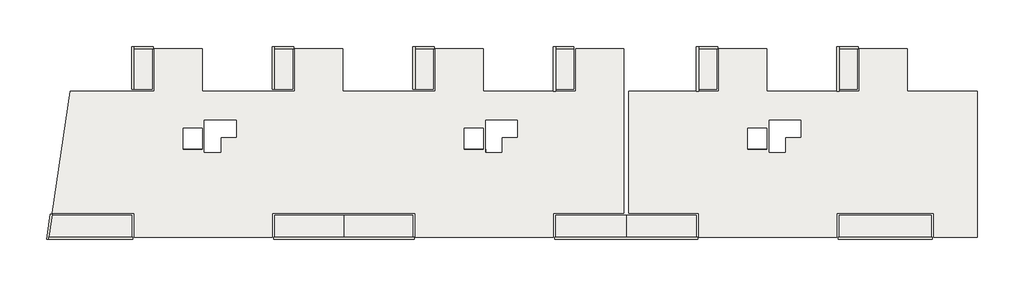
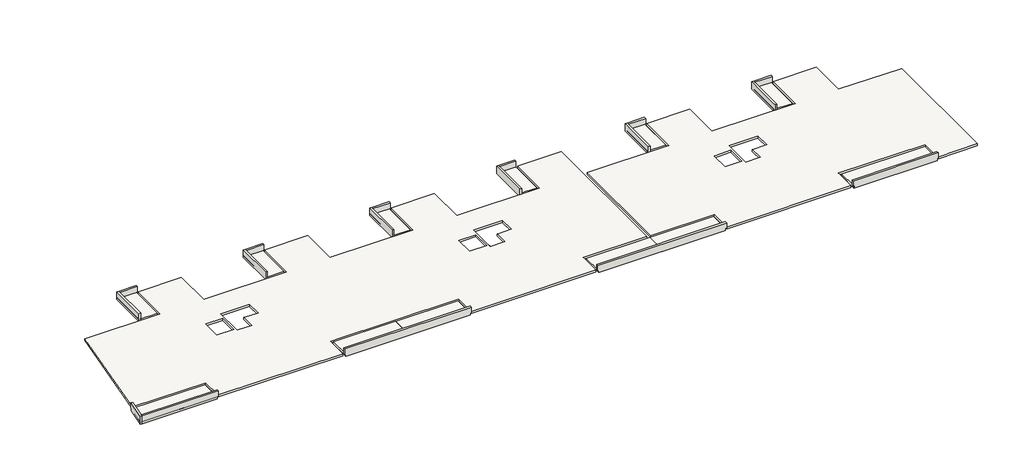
# One storey: 17 walls, 14 slabs, 3 beams.
"""IFC4 building model written with IfcOpenShell, lengths in millimetres."""

from ifc_helpers import new_model, si_unit, frame, origin, place, context, project, spatial, polyline, outline, extrude, faceted_brep, element, save

model = new_model("IFC4")

# Units and contexts
model_context = context("Model", 3, world=origin())
ifc_project = project(units=[si_unit("LENGTHUNIT", "METRE", prefix="MILLI")], contexts=[model_context])

# Site, building, storey
site = spatial("IfcSite", under=ifc_project)
building = spatial("IfcBuilding", under=site)
storey = spatial("IfcBuildingStorey", under=building, Name="Niv +3", Elevation=8100.0)

# Beams
placement = place(None, origin())
element("IfcBeam", 1, ObjectType="FREYS POUTRE BETON : -FREYS béton 20*38 C 25/30", at=placement, inside=storey, context=model_context, shape_type="SweptSolid", body=[
    extrude(outline(polyline([(-20235.4433224, 1086.34287), (-20235.4433224, 1286.34287), (-18635.4741279, 1286.34287), (-18635.4741279, 1086.34287), (-20235.4433224, 1086.34287)])), frame((0.0, 0.0, 7720.0), z_axis=(0.0, 0.0, 1.0), x_axis=(1.0, 0.0, 0.0)), (0.0, 0.0, 1.0), 180.0),
])
element("IfcBeam", 2, ObjectType="FREYS POUTRE BETON : -FREYS béton 20*38 C 25/30", at=placement, inside=storey, context=model_context, shape_type="SweptSolid", body=[
    extrude(outline(polyline([(5564.5312777, 1286.34287), (5564.5312777, 1086.34287), (5562.590834, 1086.34287), (5562.590834, 1286.34287), (5564.5312777, 1286.34287)])), frame((0.0, 0.0, 7900.0), z_axis=(0.0, 0.0, 1.0), x_axis=(1.0, 0.0, 0.0)), (0.0, 0.0, 1.0), 200.0),
    extrude(outline(polyline([(5364.5312777, 1286.34287), (5364.5312777, 1086.34287), (3764.5312756, 1086.34287), (3764.5312756, 1286.34287), (5364.5312777, 1286.34287)])), frame((0.0, 0.0, 7720.0), z_axis=(0.0, 0.0, 1.0), x_axis=(1.0, 0.0, 0.0)), (0.0, 0.0, 1.0), 180.0),
])
element("IfcBeam", 3, ObjectType="FREYS POUTRE BETON : -FREYS béton 20*38 C 25/30", at=placement, inside=storey, context=model_context, shape_type="SweptSolid", body=[
    extrude(outline(polyline([(27964.5312756, 1086.34287), (27964.5312756, 1286.34287), (29564.5058756, 1286.34287), (29564.5058756, 1086.34287), (27964.5312756, 1086.34287)])), frame((0.0, 0.0, 7720.0), z_axis=(0.0, 0.0, 1.0), x_axis=(1.0, 0.0, 0.0)), (0.0, 0.0, 1.0), 180.0),
])

# Slabs
element("IfcSlab", 4, ObjectType="FREYS BA20 C25/30", at=placement, inside=storey, context=model_context, shape_type="Brep", body=[
    faceted_brep([(-22725.443151, 6246.3702418, 7900.0), (-22725.443151, 9876.3428653, 7900.0), (-18615.4433224, 9876.3428653, 7900.0), (-18615.4433224, 6246.3702418, 7900.0), (-10725.0456065, 6246.3702418, 7900.0), (-10725.0456065, 9876.3428653, 7900.0), (-6635.4433224, 9876.3428653, 7900.0), (-6635.4433224, 6246.3428699, 7900.0), (1274.556849, 6246.3428699, 7900.0), (1274.556849, 9876.3428653, 7900.0), (5374.5566776, 9876.3428653, 7900.0), (5374.5566776, 6246.3428699, 7900.0), (13275.4308018, 6246.3428699, 7900.0), (13275.4308018, 9876.3428699, 7900.0), (17374.5566776, 9876.3428699, 7900.0), (17374.5566776, -4173.6825564, 7900.0), (11364.5281637, -4173.6825564, 7900.0), (11364.5281637, -6223.682546, 7900.0), (-435.4687207, -6223.682546, 7900.0), (-435.4687207, -4173.6823111, 7900.0), (-12635.4687207, -4173.6823111, 7900.0), (-12635.4687207, -6223.661173, 7900.0), (-24435.4687207, -6223.661173, 7900.0), (-24435.4687207, -4173.6571231, 7900.0), (-31401.7031415, -4173.6571231, 7900.0), (-29881.1275521, 6246.3702418, 7900.0), (-18635.4741279, 3086.3428699, 7900.0), (-20235.4433224, 3086.3428699, 7900.0), (-20235.4433224, 1286.34287, 7900.0), (-18635.4741279, 1286.34287, 7900.0), (-15715.4423564, 3746.3428169, 7900.0), (-18435.4741279, 3746.3428169, 7900.0), (-18435.4741279, 1046.3702418, 7900.0), (-17055.4423564, 1046.3702418, 7900.0), (-17055.4423564, 2313.1211497, 7900.0), (-15715.4423564, 2313.1211497, 7900.0), (5364.5004702, 3086.3428699, 7900.0), (3764.5312756, 3086.3428699, 7900.0), (3764.5312756, 1286.34287, 7900.0), (5364.5004702, 1286.34287, 7900.0), (8282.6226054, 3746.3428169, 7900.0), (5562.590834, 3746.3428169, 7900.0), (5562.590834, 1286.34287, 7900.0), (5562.590834, 1086.34287, 7900.0), (5562.590834, 1046.3702418, 7900.0), (6942.6226054, 1046.3702418, 7900.0), (6942.6226054, 2313.1211497, 7900.0), (8282.6226054, 2313.1211497, 7900.0), (-22725.443151, 9876.3428653, 8100.0), (-22725.443151, 6246.3702418, 8100.0), (-29881.1275521, 6246.3702418, 8100.0), (-31401.7031415, -4173.6571231, 8100.0), (-24435.4687207, -4173.6571231, 8100.0), (-24435.4687207, -6223.661173, 8100.0), (-12635.4687207, -6223.661173, 8100.0), (-12635.4687207, -4173.6823111, 8100.0), (-435.4687207, -4173.6823111, 8100.0), (-435.4687207, -6223.682546, 8100.0), (11364.5281637, -6223.682546, 8100.0), (11364.5281637, -4173.6825564, 8100.0), (17374.5566776, -4173.6825564, 8100.0), (17374.5566776, 9876.3428699, 8100.0), (13275.4308018, 9876.3428699, 8100.0), (13275.4308018, 6246.3428699, 8100.0), (5374.5566776, 6246.3428699, 8100.0), (5374.5566776, 9876.3428653, 8100.0), (1274.556849, 9876.3428653, 8100.0), (1274.556849, 6246.3428699, 8100.0), (-6635.4433224, 6246.3428699, 8100.0), (-6635.4433224, 9876.3428653, 8100.0), (-10725.0456065, 9876.3428653, 8100.0), (-10725.0456065, 6246.3702418, 8100.0), (-18615.4433224, 6246.3702418, 8100.0), (-18615.4433224, 9876.3428653, 8100.0), (-20235.4433224, 3086.3428699, 8100.0), (-18635.4741279, 3086.3428699, 8100.0), (-18635.4741279, 1286.34287, 8100.0), (-20235.4433224, 1286.34287, 8100.0), (-18435.4741279, 3746.3428169, 8100.0), (-15715.4423564, 3746.3428169, 8100.0), (-15715.4423564, 2313.1211497, 8100.0), (-17055.4423564, 2313.1211497, 8100.0), (-17055.4423564, 1046.3702418, 8100.0), (-18435.4741279, 1046.3702418, 8100.0), (3764.5312756, 3086.3428699, 8100.0), (5364.5004702, 3086.3428699, 8100.0), (5364.5004702, 1286.34287, 8100.0), (3764.5312756, 1286.34287, 8100.0), (5562.590834, 3746.3428169, 8100.0), (8282.6226054, 3746.3428169, 8100.0), (8282.6226054, 2313.1211497, 8100.0), (6942.6226054, 2313.1211497, 8100.0), (6942.6226054, 1046.3702418, 8100.0), (5562.590834, 1046.3702418, 8100.0), (5562.590834, 1086.34287, 8100.0), (5562.590834, 1286.34287, 8100.0)], [[[0, 1, 2, 3, 4, 5, 6, 7, 8, 9, 10, 11, 12, 13, 14, 15, 16, 17, 18, 19, 20, 21, 22, 23, 24, 25], [26, 27, 28, 29], [30, 31, 32, 33, 34, 35], [36, 37, 38, 39], [40, 41, 42, 43, 44, 45, 46, 47]], [[48, 49, 50, 51, 52, 53, 54, 55, 56, 57, 58, 59, 60, 61, 62, 63, 64, 65, 66, 67, 68, 69, 70, 71, 72, 73], [74, 75, 76, 77], [78, 79, 80, 81, 82, 83], [84, 85, 86, 87], [88, 89, 90, 91, 92, 93, 94, 95]], [[1, 0, 49, 48]], [[2, 1, 48, 73]], [[3, 2, 73, 72]], [[4, 3, 72, 71]], [[5, 4, 71, 70]], [[6, 5, 70, 69]], [[7, 6, 69, 68]], [[8, 7, 68, 67]], [[9, 8, 67, 66]], [[10, 9, 66, 65]], [[11, 10, 65, 64]], [[12, 11, 64, 63]], [[13, 12, 63, 62]], [[14, 13, 62, 61]], [[15, 14, 61, 60]], [[16, 15, 60, 59]], [[17, 16, 59, 58]], [[18, 17, 58, 57]], [[19, 18, 57, 56]], [[20, 19, 56, 55]], [[21, 20, 55, 54]], [[22, 21, 54, 53]], [[23, 22, 53, 52]], [[24, 23, 52, 51]], [[25, 24, 51, 50]], [[0, 25, 50, 49]], [[26, 75, 74, 27]], [[27, 74, 77, 28]], [[28, 77, 76, 29]], [[75, 26, 29, 76]], [[30, 79, 78, 31]], [[31, 78, 83, 32]], [[32, 83, 82, 33]], [[33, 82, 81, 34]], [[34, 81, 80, 35]], [[79, 30, 35, 80]], [[36, 85, 84, 37]], [[37, 84, 87, 38]], [[38, 87, 86, 39]], [[85, 36, 39, 86]], [[40, 89, 88, 41]], [[41, 88, 95, 94, 93, 44, 43, 42]], [[44, 93, 92, 45]], [[45, 92, 91, 46]], [[46, 91, 90, 47]], [[89, 40, 47, 90]]]),
])
element("IfcSlab", 5, ObjectType="FREYS BA21-Var C25/30", at=placement, inside=storey, context=model_context, shape_type="SweptSolid", body=[
    extrude(outline(polyline([(7890.0, -12635.4687207), (7890.0, -10905.0456065), (8070.0, -10905.0456065), (8100.0, -12635.4687207), (7890.0, -12635.4687207)])), frame((0.0, 6426.3702418, 0.0), z_axis=(0.0, 1.0, 0.0), x_axis=(0.0, 0.0, 1.0)), (0.0, 0.0, 1.0), 3629.9726235),
])
element("IfcSlab", 6, ObjectType="FREYS BA21-Var C25/30", at=placement, inside=storey, context=model_context, shape_type="SweptSolid", body=[
    extrude(outline(polyline([(7890.0, -24635.8662653), (7890.0, -22905.443151), (8070.0, -22905.443151), (8100.0, -24635.8662653), (7890.0, -24635.8662653)])), frame((0.0, 6426.3702418, 0.0), z_axis=(0.0, 1.0, 0.0), x_axis=(0.0, 0.0, 1.0)), (0.0, 0.0, 1.0), 3629.9726235),
])
element("IfcSlab", 7, ObjectType="FREYS BA21-Var C25/30", at=placement, inside=storey, context=model_context, shape_type="SweptSolid", body=[
    extrude(outline(polyline([(7890.0, -635.8662653), (7890.0, 1094.556849), (8070.0, 1094.556849), (8100.0, -635.8662653), (7890.0, -635.8662653)])), frame((0.0, 6426.3702418, 0.0), z_axis=(0.0, 1.0, 0.0), x_axis=(0.0, 0.0, 1.0)), (0.0, 0.0, 1.0), 3629.9726235),
])
element("IfcSlab", 8, ObjectType="FREYS BA21-Var C25/30", at=placement, inside=storey, context=model_context, shape_type="SweptSolid", body=[
    extrude(outline(polyline([(7890.0, 11364.1337347), (7890.0, 13094.556849), (8070.0, 13094.556849), (8100.0, 11364.1337347), (7890.0, 11364.1337347)])), frame((0.0, 6426.3702418, 0.0), z_axis=(0.0, 1.0, 0.0), x_axis=(0.0, 0.0, 1.0)), (0.0, 0.0, 1.0), 3629.9726235),
])
element("IfcSlab", 9, ObjectType="FREYS BA21-Var C25/30", at=placement, inside=storey, context=model_context, shape_type="SweptSolid", body=[
    extrude(outline(polyline([(7890.0, 23564.1337347), (7890.0, 25294.556849), (8070.0, 25294.556849), (8100.0, 23564.1337347), (7890.0, 23564.1337347)])), frame((0.0, 6426.3702418, 0.0), z_axis=(0.0, 1.0, 0.0), x_axis=(0.0, 0.0, 1.0)), (0.0, 0.0, 1.0), 3629.9726235),
])
element("IfcSlab", 10, ObjectType="FREYS BA21-Var C25/30", at=placement, inside=storey, context=model_context, shape_type="SweptSolid", body=[
    extrude(outline(polyline([(7890.0, 35564.1337347), (7890.0, 37294.556849), (8070.0, 37294.556849), (8100.0, 35564.1337347), (7890.0, 35564.1337347)])), frame((0.0, 6426.3702418, 0.0), z_axis=(0.0, 1.0, 0.0), x_axis=(0.0, 0.0, 1.0)), (0.0, 0.0, 1.0), 3629.9726235),
])
element("IfcSlab", 11, ObjectType="FREYS BA21-Var C25/30", at=placement, inside=storey, context=model_context, shape_type="Brep", body=[
    faceted_brep([(-31898.8987013, -6403.661173, 7890.0), (-31599.7453491, -4353.6571231, 7890.0), (-24635.4687207, -4353.6571231, 7890.0), (-24635.4687207, -6403.661173, 7890.0), (-31898.8987013, -6403.661173, 8100.0), (-31599.7453491, -4353.6571231, 8070.0), (-24635.4687207, -4353.6571231, 8070.0), (-24635.4687207, -6403.661173, 8100.0)], [[[0, 1, 2, 3]], [[1, 0, 4, 5]], [[2, 1, 5, 6]], [[3, 2, 6, 7]], [[0, 3, 7, 4]], [[7, 6, 5, 4]]]),
])
element("IfcSlab", 12, ObjectType="FREYS BA21-Var C25/30", at=placement, inside=storey, context=model_context, shape_type="SweptSolid", body=[
    extrude(outline(polyline([(-4353.6823111, 7890.0), (-6363.6782535, 7890.0), (-6363.6782535, 8100.0), (-4353.6823111, 8070.0), (-4353.6823111, 7890.0)])), frame((-12435.4687207, 0.0, 0.0), z_axis=(1.0, 0.0, 0.0), x_axis=(0.0, 1.0, 0.0)), (0.0, 0.0, 1.0), 5894.999993),
])
element("IfcSlab", 13, ObjectType="FREYS BA21-Var C25/30", at=placement, inside=storey, context=model_context, shape_type="SweptSolid", body=[
    extrude(outline(polyline([(-4353.6823111, 7890.0), (-6363.6782535, 7890.0), (-6363.6782535, 8100.0), (-4353.6823111, 8070.0), (-4353.6823111, 7890.0)])), frame((-6530.4687278, 0.0, 0.0), z_axis=(1.0, 0.0, 0.0), x_axis=(0.0, 1.0, 0.0)), (0.0, 0.0, 1.0), 5889.9999999),
])
element("IfcSlab", 14, ObjectType="FREYS BA21-Var C25/30", at=placement, inside=storey, context=model_context, shape_type="SweptSolid", body=[
    extrude(outline(polyline([(-4353.6825564, 7890.0), (-6363.6722782, 7890.0), (-6363.6722782, 8100.0), (-4353.6825564, 8070.0), (-4353.6825564, 7890.0)])), frame((11564.5281637, 0.0, 0.0), z_axis=(1.0, 0.0, 0.0), x_axis=(0.0, 1.0, 0.0)), (0.0, 0.0, 1.0), 5989.9775191),
])
element("IfcSlab", 15, ObjectType="FREYS BA21-Var C25/30", at=placement, inside=storey, context=model_context, shape_type="SweptSolid", body=[
    extrude(outline(polyline([(-4353.6825564, 7890.0), (-6363.6722782, 7890.0), (-6363.6722782, 8100.0), (-4353.6825564, 8070.0), (-4353.6825564, 7890.0)])), frame((17574.5789126, 0.0, 0.0), z_axis=(1.0, 0.0, 0.0), x_axis=(0.0, 1.0, 0.0)), (0.0, 0.0, 1.0), 5989.9775191),
])
element("IfcSlab", 16, ObjectType="FREYS BA21-Var C25/30", at=placement, inside=storey, context=model_context, shape_type="SweptSolid", body=[
    extrude(outline(polyline([(-4353.6837353, 7890.0), (-6363.6732471, 7890.0), (-6363.6732471, 8100.0), (-4353.6837353, 8070.0), (-4353.6837353, 7890.0)])), frame((35764.5312786, 0.0, 0.0), z_axis=(1.0, 0.0, 0.0), x_axis=(0.0, 1.0, 0.0)), (0.0, 0.0, 1.0), 7860.0251625),
])
element("IfcSlab", 17, ObjectType="FREYS BA20 C25/30", at=placement, inside=storey, context=model_context, shape_type="SweptSolid", body=[
    extrude(outline(polyline([(25474.556849, 6246.3428699), (25474.556849, 9874.7647075), (29584.5566776, 9874.7647075), (29584.5566776, 6246.3428699), (37474.5566776, 6246.3428699), (37474.5566776, 9876.3428653), (41564.5566776, 9876.3428653), (41564.5566776, 6246.3428699), (47554.5312792, 6246.3428699), (47554.5312792, -6223.7079703), (43804.5564412, -6223.7079703), (43804.5564412, -4173.6837353), (35564.5312786, -4173.6837353), (35564.5312786, -6223.682253), (23764.5564317, -6223.682253), (23764.5564317, -4173.682553), (17774.5566776, -4173.682553), (17774.5566776, 6246.3428699), (25474.556849, 6246.3428699)]), holes=[polyline([(29564.5004702, 3086.3428699), (27964.5312756, 3086.3428699), (27964.5312756, 1286.34287), (29564.5004702, 1286.34287), (29564.5004702, 3086.3428699)]), polyline([(32484.537647, 3746.3428169), (29764.5058756, 3746.3428169), (29764.5058756, 1046.3702418), (31144.537647, 1046.3702418), (31144.537647, 2313.1211497), (32484.537647, 2313.1211497), (32484.537647, 3746.3428169)])]), frame((0.0, 0.0, 7900.0), z_axis=(0.0, 0.0, 1.0), x_axis=(1.0, 0.0, 0.0)), (0.0, 0.0, 1.0), 200.0),
])

# Walls
element("IfcWall", 18, ObjectType="FREYS acro C25/30 ep=18 EXT", at=placement, inside=storey, context=model_context, shape_type="Brep", body=[
    faceted_brep([(-31609.8766701, -4353.6571231, 7890.0), (-31909.0300224, -6403.661173, 7890.0), (-31909.0300224, -6403.661173, 8650.0), (-31594.8466676, -4250.6612322, 8650.0), (-31594.8466676, -4250.6612322, 8100.0), (-31609.8766701, -4353.6571231, 8100.0), (-31427.9702133, -4353.6571231, 7890.0), (-31427.9702133, -4353.6571231, 8100.0), (-31416.733144, -4276.6530139, 8100.0), (-31416.733144, -4276.6530139, 8650.0), (-31700.8564938, -6223.661173, 8650.0), (-31727.1235655, -6403.661173, 8650.0), (-31727.1235655, -6403.661173, 7890.0), (-31700.8564938, -6223.661173, 7890.0)], [[[0, 1, 2, 3, 4, 5]], [[6, 7, 8, 9, 10, 11, 12, 13]], [[1, 0, 6, 13, 12]], [[3, 2, 11, 10, 9]], [[2, 1, 12, 11]], [[4, 3, 9, 8]], [[4, 8, 7, 5]], [[0, 5, 7, 6]]]),
])
element("IfcWall", 19, ObjectType="FREYS acro C25/30 ep=18 EXT", at=placement, inside=storey, context=model_context, shape_type="Brep", body=[
    faceted_brep([(-24635.4687207, -6223.661173, 7890.0), (-31700.8564938, -6223.661173, 7890.0), (-31700.8564938, -6223.661173, 8650.0), (-24535.4687207, -6223.661173, 8650.0), (-24535.4687207, -6223.661173, 8100.0), (-24635.4687207, -6223.661173, 8100.0), (-24635.4687207, -6403.661173, 7890.0), (-24635.4687207, -6403.661173, 8100.0), (-24535.4687207, -6403.661173, 8100.0), (-24535.4687207, -6403.661173, 8650.0), (-31727.1235655, -6403.661173, 8650.0), (-31727.1235655, -6403.661173, 7890.0)], [[[0, 1, 2, 3, 4, 5]], [[6, 7, 8, 9, 10, 11]], [[1, 0, 6, 11]], [[3, 2, 10, 9]], [[2, 1, 11, 10]], [[4, 3, 9, 8]], [[4, 8, 7, 5]], [[0, 5, 7, 6]]]),
])
element("IfcWall", 20, ObjectType="FREYS acro C25/30 ep=18 EXT", at=placement, inside=storey, context=model_context, shape_type="SweptSolid", body=[
    extrude(outline(polyline([(7890.0, -12435.4687207), (7890.0, -635.4687207), (8100.0, -635.4687207), (8100.0, -535.4687207), (8650.0, -535.4687207), (8650.0, -12535.4687207), (8100.0, -12535.4687207), (8100.0, -12435.4687207), (7890.0, -12435.4687207)])), frame((0.0, -6403.661173, 0.0), z_axis=(0.0, 1.0, 0.0), x_axis=(0.0, 0.0, 1.0)), (0.0, 0.0, 1.0), 180.0),
])
element("IfcWall", 21, ObjectType="FREYS acro C25/30 ep=18 EXT", at=placement, inside=storey, context=model_context, shape_type="SweptSolid", body=[
    extrude(outline(polyline([(7890.0, 11564.5281637), (7890.0, 23564.5564317), (8100.0, 23564.5564317), (8100.0, 23664.5564317), (8650.0, 23664.5564317), (8650.0, 11464.5281637), (8100.0, 11464.5281637), (8100.0, 11564.5281637), (7890.0, 11564.5281637)])), frame((0.0, -6403.682546, 0.0), z_axis=(0.0, 1.0, 0.0), x_axis=(0.0, 0.0, 1.0)), (0.0, 0.0, 1.0), 180.0),
])
element("IfcWall", 22, ObjectType="FREYS acro C25/30 ep=18 EXT", at=placement, inside=storey, context=model_context, shape_type="SweptSolid", body=[
    extrude(outline(polyline([(7890.0, 35764.5312786), (7890.0, 43624.5564412), (8100.0, 43624.5564412), (8100.0, 43714.5564412), (8650.0, 43714.5564412), (8650.0, 35664.5312786), (8100.0, 35664.5312786), (8100.0, 35764.5312786), (7890.0, 35764.5312786)])), frame((0.0, -6403.682253, 0.0), z_axis=(0.0, 1.0, 0.0), x_axis=(0.0, 0.0, 1.0)), (0.0, 0.0, 1.0), 180.0),
])
element("IfcWall", 23, ObjectType="FREYS acro C25/30 ep=18 EXT", at=placement, inside=storey, context=model_context, shape_type="Brep", body=[
    faceted_brep([(-24455.8662653, 6426.3702418, 8650.0), (-24455.8662653, 6426.3702418, 8100.0), (-24455.8662653, 6426.3702418, 7890.0), (-24455.8662653, 9876.3428653, 7890.0), (-24455.8662653, 10056.3428653, 7890.0), (-24455.8662653, 10056.3428653, 8650.0), (-24455.8662653, 9876.3428653, 8650.0), (-24635.8662653, 6426.3702418, 7890.0), (-24635.8662653, 6426.3702418, 8650.0), (-24635.8662653, 10056.3428653, 8650.0), (-24635.8662653, 10056.3428653, 7890.0)], [[[0, 1, 2, 3, 4, 5, 6]], [[7, 8, 9, 10]], [[4, 3, 2, 7, 10]], [[0, 6, 5, 9, 8]], [[5, 4, 10, 9]], [[0, 8, 7, 2, 1]]]),
])
element("IfcWall", 24, ObjectType="FREYS acro C25/30 ep=18 EXT", at=placement, inside=storey, context=model_context, shape_type="SweptSolid", body=[
    extrude(outline(polyline([(7890.0, -24455.8662653), (7890.0, -22905.443151), (8100.0, -22905.443151), (8100.0, -22815.443151), (8650.0, -22815.443151), (8650.0, -24455.8662653), (7890.0, -24455.8662653)])), frame((0.0, 9876.3428653, 0.0), z_axis=(0.0, 1.0, 0.0), x_axis=(0.0, 0.0, 1.0)), (0.0, 0.0, 1.0), 180.0),
])
element("IfcWall", 25, ObjectType="FREYS acro C25/30 ep=18 EXT", at=placement, inside=storey, context=model_context, shape_type="Brep", body=[
    faceted_brep([(-12455.4687207, 6426.3702418, 8650.0), (-12455.4687207, 6426.3702418, 7890.0), (-12455.4687207, 9876.3428653, 7890.0), (-12455.4687207, 10056.3428653, 7890.0), (-12455.4687207, 10056.3428653, 8650.0), (-12455.4687207, 9876.3428653, 8650.0), (-12635.4687207, 6426.3702418, 7890.0), (-12635.4687207, 6426.3702418, 8650.0), (-12635.4687207, 10056.3428653, 8650.0), (-12635.4687207, 10056.3428653, 7890.0), (-12545.4687207, 6426.3702418, 7890.0)], [[[0, 1, 2, 3, 4, 5]], [[6, 7, 8, 9]], [[3, 2, 1, 10, 6, 9]], [[0, 5, 4, 8, 7]], [[4, 3, 9, 8]], [[0, 7, 6, 10, 1]]]),
])
element("IfcWall", 26, ObjectType="FREYS acro C25/30 ep=18 EXT", at=placement, inside=storey, context=model_context, shape_type="SweptSolid", body=[
    extrude(outline(polyline([(7890.0, -12455.4687207), (7890.0, -10905.0456065), (8100.0, -10905.0456065), (8100.0, -10815.0456065), (8650.0, -10815.0456065), (8650.0, -12455.4687207), (7890.0, -12455.4687207)])), frame((0.0, 9876.3428653, 0.0), z_axis=(0.0, 1.0, 0.0), x_axis=(0.0, 0.0, 1.0)), (0.0, 0.0, 1.0), 180.0),
])
element("IfcWall", 27, ObjectType="FREYS acro C25/30 ep=18 EXT", at=placement, inside=storey, context=model_context, shape_type="Brep", body=[
    faceted_brep([(-455.8662653, 6426.3428699, 8650.0), (-455.8662653, 6426.3428699, 7890.0), (-455.8662653, 9876.3428653, 7890.0), (-455.8662653, 10056.3428653, 7890.0), (-455.8662653, 10056.3428653, 8650.0), (-455.8662653, 9876.3428653, 8650.0), (-635.8662653, 6426.3428699, 7890.0), (-635.8662653, 6426.3428699, 8650.0), (-635.8662653, 10056.3428653, 8650.0), (-635.8662653, 10056.3428653, 7890.0), (-545.8662653, 6426.3428699, 7890.0)], [[[0, 1, 2, 3, 4, 5]], [[6, 7, 8, 9]], [[3, 2, 1, 10, 6, 9]], [[0, 5, 4, 8, 7]], [[4, 3, 9, 8]], [[0, 7, 6, 10, 1]]]),
])
element("IfcWall", 28, ObjectType="FREYS acro C25/30 ep=18 EXT", at=placement, inside=storey, context=model_context, shape_type="SweptSolid", body=[
    extrude(outline(polyline([(7890.0, -455.8662653), (7890.0, 1094.556849), (8100.0, 1094.556849), (8100.0, 1184.556849), (8650.0, 1184.556849), (8650.0, -455.8662653), (7890.0, -455.8662653)])), frame((0.0, 9876.3428653, 0.0), z_axis=(0.0, 1.0, 0.0), x_axis=(0.0, 0.0, 1.0)), (0.0, 0.0, 1.0), 180.0),
])
element("IfcWall", 29, ObjectType="FREYS acro C25/30 ep=18 EXT", at=placement, inside=storey, context=model_context, shape_type="Brep", body=[
    faceted_brep([(11544.1337347, 6246.3428699, 8650.0), (11544.1337347, 6246.3428699, 8100.0), (11544.1337347, 6246.3428699, 7890.0), (11544.1337347, 6426.3428699, 7890.0), (11544.1337347, 9876.3428653, 7890.0), (11544.1337347, 10056.3428653, 7890.0), (11544.1337347, 10056.3428653, 8650.0), (11544.1337347, 9876.3428653, 8650.0), (11364.1337347, 6246.3428699, 7890.0), (11364.1337347, 6246.3428699, 8650.0), (11364.1337347, 6426.3428699, 8650.0), (11364.1337347, 10056.3428653, 8650.0), (11364.1337347, 10056.3428653, 7890.0), (11364.1337347, 6426.3428699, 7890.0), (11454.1337347, 6246.3428699, 7890.0)], [[[0, 1, 2, 3, 4, 5, 6, 7]], [[8, 9, 10, 11, 12, 13]], [[5, 4, 3, 2, 14, 8, 13, 12]], [[0, 7, 6, 11, 10, 9]], [[6, 5, 12, 11]], [[0, 9, 8, 14, 2, 1]]]),
])
element("IfcWall", 30, ObjectType="FREYS acro C25/30 ep=18 EXT", at=placement, inside=storey, context=model_context, shape_type="SweptSolid", body=[
    extrude(outline(polyline([(13094.556849, 9876.3428653), (11544.1337347, 9876.3428653), (11544.1337347, 10056.3428653), (13094.556849, 10056.3428653), (13094.556849, 9876.3428653)])), frame((0.0, 0.0, 7890.0), z_axis=(0.0, 0.0, 1.0), x_axis=(1.0, 0.0, 0.0)), (0.0, 0.0, 1.0), 760.0),
])
element("IfcWall", 31, ObjectType="FREYS acro C25/30 ep=18 EXT", at=placement, inside=storey, context=model_context, shape_type="Brep", body=[
    faceted_brep([(23744.1337347, 6246.3428699, 8650.0), (23744.1337347, 6246.3428699, 8100.0), (23744.1337347, 6246.3428699, 7890.0), (23744.1337347, 6426.3428699, 7890.0), (23744.1337347, 9876.3428653, 7890.0), (23744.1337347, 10056.3428653, 7890.0), (23744.1337347, 10056.3428653, 8650.0), (23744.1337347, 9876.3428653, 8650.0), (23564.1337347, 6246.3428699, 7890.0), (23564.1337347, 6246.3428699, 8650.0), (23564.1337347, 6426.3428699, 8650.0), (23564.1337347, 10056.3428653, 8650.0), (23564.1337347, 10056.3428653, 7890.0), (23564.1337347, 6426.3428699, 7890.0), (23654.1337347, 6246.3428699, 7890.0)], [[[0, 1, 2, 3, 4, 5, 6, 7]], [[8, 9, 10, 11, 12, 13]], [[5, 4, 3, 2, 14, 8, 13, 12]], [[0, 7, 6, 11, 10, 9]], [[6, 5, 12, 11]], [[0, 9, 8, 14, 2, 1]]]),
])
element("IfcWall", 32, ObjectType="FREYS acro C25/30 ep=18 EXT", at=placement, inside=storey, context=model_context, shape_type="Brep", body=[
    faceted_brep([(23744.1337347, 9876.3428653, 7890.0), (25294.556849, 9876.3428653, 7890.0), (25294.556849, 9876.3428653, 8100.0), (25384.556849, 9876.3428653, 8100.0), (25384.556849, 9876.3428653, 8650.0), (23744.1337347, 9876.3428653, 8650.0), (23744.1337347, 10056.3428653, 7890.0), (23744.1337347, 10056.3428653, 8650.0), (25384.556849, 10056.3428653, 8650.0), (25384.556849, 10056.3428653, 8100.0), (25294.556849, 10056.3428653, 8100.0), (25294.556849, 10056.3428653, 7890.0), (25384.556849, 10054.7647075, 8650.0), (25384.556849, 10054.7647075, 8100.0), (25294.556849, 10054.7647075, 8100.0)], [[[0, 1, 2, 3, 4, 5]], [[6, 7, 8, 9, 10, 11]], [[1, 0, 6, 11]], [[5, 4, 12, 8, 7]], [[0, 5, 7, 6]], [[4, 3, 13, 9, 8, 12]], [[9, 13, 3, 2, 14, 10]], [[2, 1, 11, 10, 14]]]),
])
element("IfcWall", 33, ObjectType="FREYS acro C25/30 ep=18 EXT", at=placement, inside=storey, context=model_context, shape_type="Brep", body=[
    faceted_brep([(35744.1337347, 6246.3428699, 8650.0), (35744.1337347, 6246.3428699, 8100.0), (35744.1337347, 6246.3428699, 7890.0), (35744.1337347, 6426.3428699, 7890.0), (35744.1337347, 9876.3428653, 7890.0), (35744.1337347, 10056.3428653, 7890.0), (35744.1337347, 10056.3428653, 8650.0), (35744.1337347, 9876.3428653, 8650.0), (35564.1337347, 6246.3428699, 7890.0), (35564.1337347, 6246.3428699, 8650.0), (35564.1337347, 6426.3428699, 8650.0), (35564.1337347, 10056.3428653, 8650.0), (35564.1337347, 10056.3428653, 7890.0), (35564.1337347, 6426.3428699, 7890.0), (35654.1337347, 6246.3428699, 7890.0)], [[[0, 1, 2, 3, 4, 5, 6, 7]], [[8, 9, 10, 11, 12, 13]], [[5, 4, 3, 2, 14, 8, 13, 12]], [[0, 7, 6, 11, 10, 9]], [[6, 5, 12, 11]], [[0, 9, 8, 14, 2, 1]]]),
])
element("IfcWall", 34, ObjectType="FREYS acro C25/30 ep=18 EXT", at=placement, inside=storey, context=model_context, shape_type="SweptSolid", body=[
    extrude(outline(polyline([(7890.0, 35744.1337347), (7890.0, 37294.5566776), (8100.0, 37294.5566776), (8100.0, 37384.5566776), (8650.0, 37384.5566776), (8650.0, 35744.1337347), (7890.0, 35744.1337347)])), frame((0.0, 9876.3428653, 0.0), z_axis=(0.0, 1.0, 0.0), x_axis=(0.0, 0.0, 1.0)), (0.0, 0.0, 1.0), 180.0),
])

save(model, "model.ifc")
